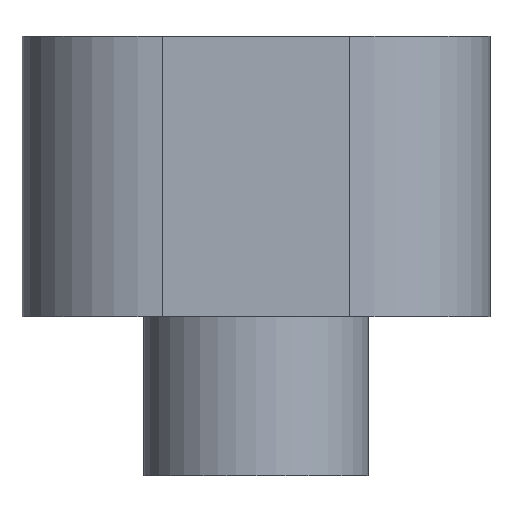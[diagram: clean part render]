
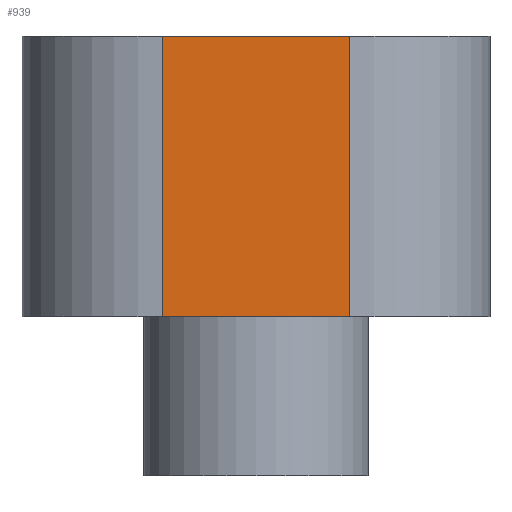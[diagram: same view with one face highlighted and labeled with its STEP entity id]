
A CAD part, front view. The second image highlights one B-rep face of the part: STEP entity #939.
In plain terms, the highlighted planar face has unit normal (0, -1, 0).
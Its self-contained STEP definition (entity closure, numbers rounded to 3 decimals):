
#62 = PLANE('',#63);
#63 = AXIS2_PLACEMENT_3D('',#64,#65,#66);
#64 = CARTESIAN_POINT('',(0.,0.,3.4));
#65 = DIRECTION('',(0.,0.,1.));
#66 = DIRECTION('',(1.,0.,-0.));
#90 = CYLINDRICAL_SURFACE('',#91,3.);
#91 = AXIS2_PLACEMENT_3D('',#92,#93,#94);
#92 = CARTESIAN_POINT('',(-2.,-7.,3.4));
#93 = DIRECTION('',(0.,0.,-1.));
#94 = DIRECTION('',(-1.,0.,0.));
#118 = PLANE('',#119);
#119 = AXIS2_PLACEMENT_3D('',#120,#121,#122);
#120 = CARTESIAN_POINT('',(0.,0.,9.4));
#121 = DIRECTION('',(0.,0.,1.));
#122 = DIRECTION('',(1.,0.,-0.));
#184 = VERTEX_POINT('',#185);
#185 = CARTESIAN_POINT('',(-2.,-10.,3.4));
#211 = EDGE_CURVE('',#184,#212,#214,.T.);
#212 = VERTEX_POINT('',#213);
#213 = CARTESIAN_POINT('',(2.,-10.,3.4));
#214 = SURFACE_CURVE('',#215,(#219,#226),.PCURVE_S1.);
#215 = LINE('',#216,#217);
#216 = CARTESIAN_POINT('',(0.,-10.,3.4));
#217 = VECTOR('',#218,1.);
#218 = DIRECTION('',(1.,0.,0.));
#219 = PCURVE('',#62,#220);
#220 = DEFINITIONAL_REPRESENTATION('',(#221),#225);
#221 = LINE('',#222,#223);
#222 = CARTESIAN_POINT('',(0.,-10.));
#223 = VECTOR('',#224,1.);
#224 = DIRECTION('',(1.,0.));
#225 = ( GEOMETRIC_REPRESENTATION_CONTEXT(2) 
PARAMETRIC_REPRESENTATION_CONTEXT() REPRESENTATION_CONTEXT('2D SPACE',''
  ) );
#226 = PCURVE('',#227,#232);
#227 = PLANE('',#228);
#228 = AXIS2_PLACEMENT_3D('',#229,#230,#231);
#229 = CARTESIAN_POINT('',(-2.,-10.,3.4));
#230 = DIRECTION('',(0.,1.,0.));
#231 = DIRECTION('',(1.,0.,0.));
#232 = DEFINITIONAL_REPRESENTATION('',(#233),#237);
#233 = LINE('',#234,#235);
#234 = CARTESIAN_POINT('',(2.,0.));
#235 = VECTOR('',#236,1.);
#236 = DIRECTION('',(1.,0.));
#237 = ( GEOMETRIC_REPRESENTATION_CONTEXT(2) 
PARAMETRIC_REPRESENTATION_CONTEXT() REPRESENTATION_CONTEXT('2D SPACE',''
  ) );
#260 = CYLINDRICAL_SURFACE('',#261,3.);
#261 = AXIS2_PLACEMENT_3D('',#262,#263,#264);
#262 = CARTESIAN_POINT('',(2.,-7.,3.4));
#263 = DIRECTION('',(0.,0.,-1.));
#264 = DIRECTION('',(-1.,0.,0.));
#468 = EDGE_CURVE('',#184,#469,#471,.T.);
#469 = VERTEX_POINT('',#470);
#470 = CARTESIAN_POINT('',(-2.,-10.,9.4));
#471 = SURFACE_CURVE('',#472,(#476,#483),.PCURVE_S1.);
#472 = LINE('',#473,#474);
#473 = CARTESIAN_POINT('',(-2.,-10.,3.4));
#474 = VECTOR('',#475,1.);
#475 = DIRECTION('',(0.,0.,1.));
#476 = PCURVE('',#90,#477);
#477 = DEFINITIONAL_REPRESENTATION('',(#478),#482);
#478 = LINE('',#479,#480);
#479 = CARTESIAN_POINT('',(4.712,0.));
#480 = VECTOR('',#481,1.);
#481 = DIRECTION('',(0.,-1.));
#482 = ( GEOMETRIC_REPRESENTATION_CONTEXT(2) 
PARAMETRIC_REPRESENTATION_CONTEXT() REPRESENTATION_CONTEXT('2D SPACE',''
  ) );
#483 = PCURVE('',#227,#484);
#484 = DEFINITIONAL_REPRESENTATION('',(#485),#489);
#485 = LINE('',#486,#487);
#486 = CARTESIAN_POINT('',(0.,0.));
#487 = VECTOR('',#488,1.);
#488 = DIRECTION('',(0.,-1.));
#489 = ( GEOMETRIC_REPRESENTATION_CONTEXT(2) 
PARAMETRIC_REPRESENTATION_CONTEXT() REPRESENTATION_CONTEXT('2D SPACE',''
  ) );
#524 = EDGE_CURVE('',#469,#525,#527,.T.);
#525 = VERTEX_POINT('',#526);
#526 = CARTESIAN_POINT('',(2.,-10.,9.4));
#527 = SURFACE_CURVE('',#528,(#532,#539),.PCURVE_S1.);
#528 = LINE('',#529,#530);
#529 = CARTESIAN_POINT('',(0.,-10.,9.4));
#530 = VECTOR('',#531,1.);
#531 = DIRECTION('',(1.,0.,0.));
#532 = PCURVE('',#118,#533);
#533 = DEFINITIONAL_REPRESENTATION('',(#534),#538);
#534 = LINE('',#535,#536);
#535 = CARTESIAN_POINT('',(0.,-10.));
#536 = VECTOR('',#537,1.);
#537 = DIRECTION('',(1.,0.));
#538 = ( GEOMETRIC_REPRESENTATION_CONTEXT(2) 
PARAMETRIC_REPRESENTATION_CONTEXT() REPRESENTATION_CONTEXT('2D SPACE',''
  ) );
#539 = PCURVE('',#227,#540);
#540 = DEFINITIONAL_REPRESENTATION('',(#541),#545);
#541 = LINE('',#542,#543);
#542 = CARTESIAN_POINT('',(2.,-6.));
#543 = VECTOR('',#544,1.);
#544 = DIRECTION('',(1.,0.));
#545 = ( GEOMETRIC_REPRESENTATION_CONTEXT(2) 
PARAMETRIC_REPRESENTATION_CONTEXT() REPRESENTATION_CONTEXT('2D SPACE',''
  ) );
#939 = ADVANCED_FACE('',(#940),#227,.F.);
#940 = FACE_BOUND('',#941,.F.);
#941 = EDGE_LOOP('',(#942,#943,#944,#965));
#942 = ORIENTED_EDGE('',*,*,#468,.T.);
#943 = ORIENTED_EDGE('',*,*,#524,.T.);
#944 = ORIENTED_EDGE('',*,*,#945,.F.);
#945 = EDGE_CURVE('',#212,#525,#946,.T.);
#946 = SURFACE_CURVE('',#947,(#951,#958),.PCURVE_S1.);
#947 = LINE('',#948,#949);
#948 = CARTESIAN_POINT('',(2.,-10.,3.4));
#949 = VECTOR('',#950,1.);
#950 = DIRECTION('',(0.,0.,1.));
#951 = PCURVE('',#227,#952);
#952 = DEFINITIONAL_REPRESENTATION('',(#953),#957);
#953 = LINE('',#954,#955);
#954 = CARTESIAN_POINT('',(4.,0.));
#955 = VECTOR('',#956,1.);
#956 = DIRECTION('',(0.,-1.));
#957 = ( GEOMETRIC_REPRESENTATION_CONTEXT(2) 
PARAMETRIC_REPRESENTATION_CONTEXT() REPRESENTATION_CONTEXT('2D SPACE',''
  ) );
#958 = PCURVE('',#260,#959);
#959 = DEFINITIONAL_REPRESENTATION('',(#960),#964);
#960 = LINE('',#961,#962);
#961 = CARTESIAN_POINT('',(4.712,0.));
#962 = VECTOR('',#963,1.);
#963 = DIRECTION('',(0.,-1.));
#964 = ( GEOMETRIC_REPRESENTATION_CONTEXT(2) 
PARAMETRIC_REPRESENTATION_CONTEXT() REPRESENTATION_CONTEXT('2D SPACE',''
  ) );
#965 = ORIENTED_EDGE('',*,*,#211,.F.);
